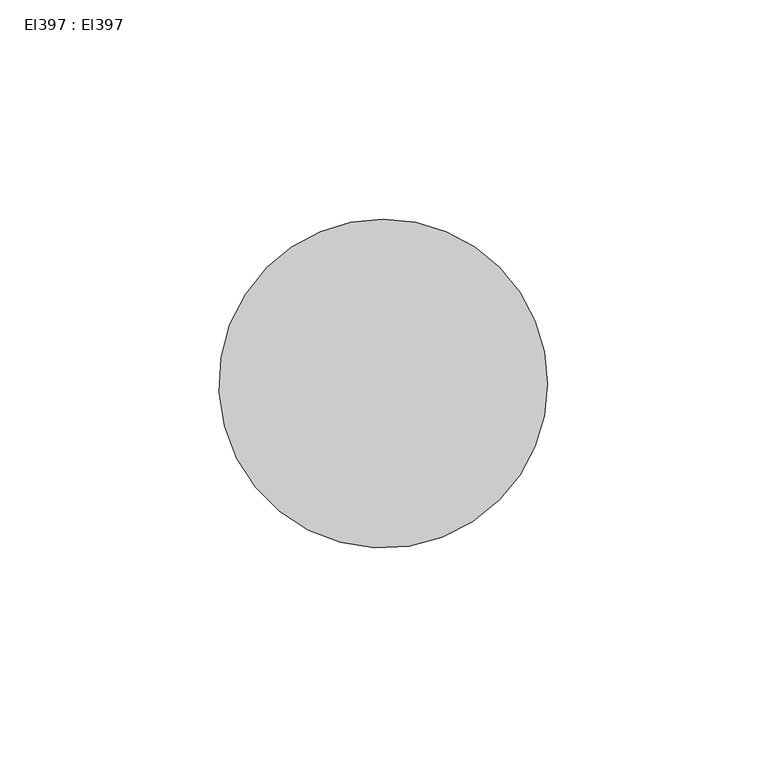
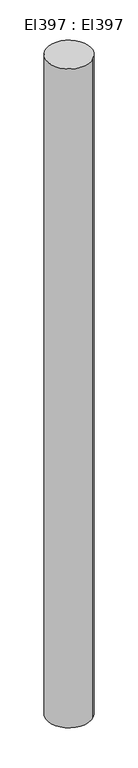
"""IFC4 building model written with IfcOpenShell, lengths in millimetres: cable carrier segment geometry, El397 : El397."""

import ifcopenshell
import ifcopenshell.guid

model = None  # the IFC model being written
_history = None  # IfcOwnerHistory: only IFC2X3 demands one
_inside = {}  # id of a spatial element -> (the spatial element, [elements in it])
_under = {}  # id of a project, library or spatial element -> (it, [spatial elements below it])
_declared = {}  # id of a project -> (the project, [libraries it declares])
_typed = {}  # id of a type object -> (the type object, [elements of that type])
_made_of = {}  # id of a material, layer set ... -> (it, [elements and type objects made of it])


def new_model(schema):
    """Start an empty IFC model of exactly this schema.

    Asked for "IFC4X3", IfcOpenShell would pick the latest addendum, in which some entities
    have other attributes; the version numbers below select the first issue.
    IFC2X3 requires an IfcOwnerHistory on every rooted entity: one is made here for all.
    """
    global model, _history
    if schema == "IFC4X3":
        model = ifcopenshell.file(schema_version=(4, 3, 0, 0))
    else:
        model = ifcopenshell.file(schema=schema)
    _inside.clear()
    _under.clear()
    _declared.clear()
    _typed.clear()
    _made_of.clear()
    _history = None
    if model.schema == "IFC2X3":
        org = make("IfcOrganization", Name="unknown")
        user = make(
            "IfcPersonAndOrganization",
            ThePerson=make("IfcPerson", FamilyName="unknown"),
            TheOrganization=org,
        )
        app = make(
            "IfcApplication",
            ApplicationDeveloper=org,
            Version="unknown",
            ApplicationFullName="unknown",
            ApplicationIdentifier="unknown",
        )
        _history = make(
            "IfcOwnerHistory",
            OwningUser=user,
            OwningApplication=app,
            ChangeAction="ADDED",
            CreationDate=0,
        )
    return model


def make(cls, **values):
    """One entity of the class cls with the attributes given. An attribute that is None is left unset."""
    return model.create_entity(
        cls, **{name: value for name, value in values.items() if value is not None}
    )


def rooted(cls, **values):
    """An entity with a GlobalId (a new one), such as an element, a storey or a relation."""
    return make(cls, GlobalId=ifcopenshell.guid.new(), OwnerHistory=_history, **values)


def si_unit(unit_type, name, prefix=None):
    """IfcSIUnit, for example si_unit("LENGTHUNIT", "METRE", prefix="MILLI")."""
    return make("IfcSIUnit", UnitType=unit_type, Prefix=prefix, Name=name)


def assignment(units):
    """IfcUnitAssignment: the units of a project."""
    return None if units is None else make("IfcUnitAssignment", Units=units)


def point(xyz):
    """IfcCartesianPoint."""
    return None if xyz is None else make("IfcCartesianPoint", Coordinates=xyz)


def direction(xyz):
    """IfcDirection."""
    return None if xyz is None else make("IfcDirection", DirectionRatios=xyz)


def frame(location, z_axis=None, x_axis=None):
    """IfcAxis2Placement3D, a coordinate frame: its origin and axes. An axis left out is left unset."""
    return make(
        "IfcAxis2Placement3D",
        Location=point(location),
        Axis=direction(z_axis),
        RefDirection=direction(x_axis),
    )


def frame_2d(location, x_axis=None):
    """IfcAxis2Placement2D, a coordinate frame in the plane: its origin and x axis."""
    return make(
        "IfcAxis2Placement2D", Location=point(location), RefDirection=direction(x_axis)
    )


def origin():
    """The frame at (0, 0, 0) with its axes left unset."""
    return frame((0.0, 0.0, 0.0))


def place(relative_to, where):
    """IfcLocalPlacement: puts the frame where relative to a parent placement (None: the world)."""
    return make(
        "IfcLocalPlacement", PlacementRelTo=relative_to, RelativePlacement=where
    )


def context(
    kind, dimensions, precision=None, world=None, true_north=None, identifier=None
):
    """IfcGeometricRepresentationContext, for example the 3D "Model" context."""
    return make(
        "IfcGeometricRepresentationContext",
        ContextIdentifier=identifier,
        ContextType=kind,
        CoordinateSpaceDimension=dimensions,
        Precision=precision,
        WorldCoordinateSystem=world,
        TrueNorth=true_north,
    )


def project(units=None, contexts=None):
    """IfcProject with its units and contexts."""
    return rooted(
        "IfcProject",
        Name="project",
        RepresentationContexts=contexts,
        UnitsInContext=assignment(units),
    )


def spatial(cls, under=None, at=None, **own):
    """A site, building, storey or space (cls), placed at a placement, below another one or the project."""
    s = rooted(cls, ObjectPlacement=at, **own)
    if under is not None:
        _under.setdefault(under.id(), (under, []))[1].append(s)
    return s


def circle_curve(where, radius):
    """IfcCircle in the frame where."""
    return make("IfcCircle", Position=where, Radius=radius)


def trimmed(basis, trim1, trim2, sense, master):
    """IfcTrimmedCurve: the piece of a basis curve between two trims."""
    return make(
        "IfcTrimmedCurve",
        BasisCurve=basis,
        Trim1=trim1,
        Trim2=trim2,
        SenseAgreement=sense,
        MasterRepresentation=master,
    )


def segment(curve, same_sense, transition):
    """IfcCompositeCurveSegment."""
    return make(
        "IfcCompositeCurveSegment",
        Transition=transition,
        SameSense=same_sense,
        ParentCurve=curve,
    )


def composite_curve(segments, self_intersect=None):
    """IfcCompositeCurve: segments joined end to end."""
    return make("IfcCompositeCurve", Segments=segments, SelfIntersect=self_intersect)


def outline(outer, holes=None, kind="AREA"):
    """IfcArbitraryClosedProfileDef: a profile drawn as a closed curve; with holes, ...WithVoids."""
    if holes is None:
        return make("IfcArbitraryClosedProfileDef", ProfileType=kind, OuterCurve=outer)
    return make(
        "IfcArbitraryProfileDefWithVoids",
        ProfileType=kind,
        OuterCurve=outer,
        InnerCurves=holes,
    )


def extrude(swept, where, along, depth):
    """IfcExtrudedAreaSolid: the profile swept, set in the frame where, extruded along a direction by depth."""
    return make(
        "IfcExtrudedAreaSolid",
        SweptArea=swept,
        Position=where,
        ExtrudedDirection=direction(along),
        Depth=depth,
    )


def shape(context_of_items, identifier, shape_type, items):
    """IfcShapeRepresentation: the items that make up one representation, for example the "Body"."""
    return make(
        "IfcShapeRepresentation",
        ContextOfItems=context_of_items,
        RepresentationIdentifier=identifier,
        RepresentationType=shape_type,
        Items=items,
    )


def source(mapping_origin, context_of_items, identifier, shape_type, items):
    """IfcRepresentationMap: a shape defined once, which mapped items show again and again."""
    return make(
        "IfcRepresentationMap",
        MappingOrigin=mapping_origin,
        MappedRepresentation=shape(context_of_items, identifier, shape_type, items),
    )


def transform(
    local_origin,
    x_axis=None,
    y_axis=None,
    z_axis=None,
    scale=None,
    scale2=None,
    scale3=None,
    uniform=True,
):
    """IfcCartesianTransformationOperator3D, or its non-uniform kind. x_axis, y_axis, z_axis: its Axis1, 2, 3."""
    if uniform:
        return make(
            "IfcCartesianTransformationOperator3D",
            Axis1=direction(x_axis),
            Axis2=direction(y_axis),
            LocalOrigin=point(local_origin),
            Scale=scale,
            Axis3=direction(z_axis),
        )
    return make(
        "IfcCartesianTransformationOperator3DnonUniform",
        Axis1=direction(x_axis),
        Axis2=direction(y_axis),
        LocalOrigin=point(local_origin),
        Scale=scale,
        Axis3=direction(z_axis),
        Scale2=scale2,
        Scale3=scale3,
    )


def mapped(mapping_source, mapping_target):
    """IfcMappedItem: shows the shape of a source again, moved by a transform."""
    return make(
        "IfcMappedItem", MappingSource=mapping_source, MappingTarget=mapping_target
    )


def made_of(thing, what):
    """Note that an element or type object is made of a material, layer set ...; save() writes the relation."""
    if what is not None:
        _made_of.setdefault(what.id(), (what, []))[1].append(thing)
    return thing


def element(
    cls,
    number,
    at=None,
    inside=None,
    cuts=None,
    type_object=None,
    material=None,
    context=None,
    identifier="Body",
    shape_type=None,
    held_by="IfcProductDefinitionShape",
    body=None,
    shapes=None,
    **own,
):
    """One element of the class cls, such as IfcWall. Its Tag is "e" and its number.

    at: its placement. inside: the storey or other place that contains it. cuts: it is an
    opening in that element (IfcRelVoidsElement). A single representation is given by context,
    identifier, shape_type and body (its items); several are given by shapes. held_by: the class
    of the entity that holds the representations. save() writes the other relations.
    """
    e = rooted(cls, Tag="e%d" % number, ObjectPlacement=at, **own)
    if body is not None:
        shapes = [shape(context, identifier, shape_type, body)]
    if shapes is not None:
        e.Representation = make(held_by, Representations=shapes)
    if inside is not None:
        _inside.setdefault(inside.id(), (inside, []))[1].append(e)
    if cuts is not None:
        rooted(
            "IfcRelVoidsElement", RelatingBuildingElement=cuts, RelatedOpeningElement=e
        )
    if type_object is not None:
        _typed.setdefault(type_object.id(), (type_object, []))[1].append(e)
    return made_of(e, material)


def aggregate(whole, parts):
    """IfcRelAggregates: a whole, such as a stair, and the parts it consists of."""
    return rooted("IfcRelAggregates", RelatingObject=whole, RelatedObjects=parts)


def save(model, path):
    """Write the relations noted so far, then the file.

    IfcRelAggregates (storeys below a building ...), IfcRelContainedInSpatialStructure (elements
    in a storey), IfcRelDefinesByType, IfcRelAssociatesMaterial and IfcRelDeclares: one each for
    every whole, place, type object, material and project.
    """
    for whole, parts in _under.values():
        aggregate(whole, parts)
    for where, things in _inside.values():
        rooted(
            "IfcRelContainedInSpatialStructure",
            RelatedElements=things,
            RelatingStructure=where,
        )
    for kind, things in _typed.values():
        rooted("IfcRelDefinesByType", RelatedObjects=things, RelatingType=kind)
    for what, things in _made_of.values():
        rooted("IfcRelAssociatesMaterial", RelatedObjects=things, RelatingMaterial=what)
    for by, libraries in _declared.values():
        rooted("IfcRelDeclares", RelatingContext=by, RelatedDefinitions=libraries)
    model.write(path)


def el397_el397_3e3b6e62(model_context):
    return source(origin(), model_context, "Body", "SweptSolid", [
        extrude(outline(composite_curve([segment(trimmed(circle_curve(frame_2d((24722.2987487, 13222.1012467)), 37.5), [point((24695.7822444, 13248.6177509))], [point((24748.815253, 13195.5847424))], False, "CARTESIAN"), True, "CONTINUOUS"), segment(trimmed(circle_curve(frame_2d((24722.2987487, 13222.1012467)), 37.5), [point((24748.815253, 13195.5847424))], [point((24695.7822444, 13248.6177509))], False, "CARTESIAN"), True, "CONTINUOUS")], self_intersect=False)), frame((0.0, 0.0, -7.82e-05), z_axis=(0.0, 0.0, 1.0), x_axis=(1.0, 0.0, 0.0)), (0.0, 0.0, 1.0), 1200.0),
    ])


if __name__ == "__main__":
    model = new_model("IFC4")
    model_context = context("Model", 3, world=origin())
    ifc_project = project(units=[si_unit("LENGTHUNIT", "METRE", prefix="MILLI")], contexts=[model_context])
    site = spatial("IfcSite", under=ifc_project)
    building = spatial("IfcBuilding", under=site)
    placement = place(None, origin())
    el397_el397_shape = el397_el397_3e3b6e62(model_context)
    element("IfcCableCarrierSegment", 1, ObjectType="El397 : El397", at=placement, inside=building, context=model_context, shape_type="MappedRepresentation", body=[
        mapped(el397_el397_shape, transform((0.0, 0.0, 0.0), x_axis=(1.0, 0.0, 0.0), y_axis=(0.0, 1.0, 0.0), z_axis=(0.0, 0.0, 1.0))),
    ])
    save(model, "model.ifc")
